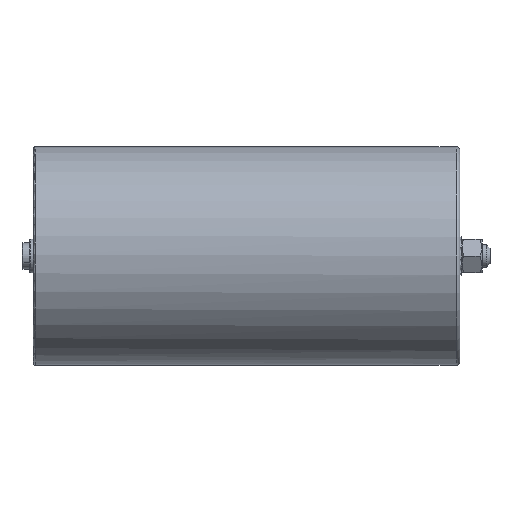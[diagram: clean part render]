
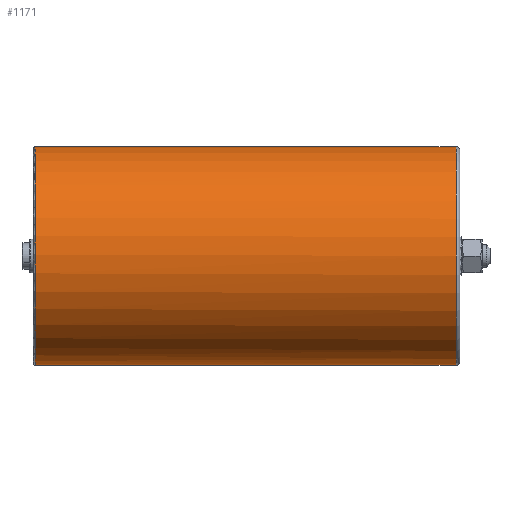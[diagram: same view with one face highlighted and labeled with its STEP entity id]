
A CAD part, left-side view. The second image highlights one B-rep face of the part: STEP entity #1171.
In plain terms, the highlighted cylindrical face has radius 58 mm (diameter 116 mm), a partial arc.
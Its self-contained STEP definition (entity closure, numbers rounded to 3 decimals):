
#25 = EDGE_CURVE ( 'NONE', #1719, #2238, #2078, .T. ) ;
#83 = DIRECTION ( 'NONE',  ( 0., -1., 0. ) ) ;
#138 = CARTESIAN_POINT ( 'NONE',  ( 0., 225., 0. ) ) ;
#418 = ORIENTED_EDGE ( 'NONE', *, *, #3956, .T. ) ;
#468 = VECTOR ( 'NONE', #2597, 1000. ) ;
#621 = CARTESIAN_POINT ( 'NONE',  ( 0., 2., 58. ) ) ;
#630 = LINE ( 'NONE', #1535, #468 ) ;
#881 = CYLINDRICAL_SURFACE ( 'NONE', #1260, 58. ) ;
#1171 = ADVANCED_FACE ( 'NONE', ( #2261 ), #881, .T. ) ;
#1199 = CARTESIAN_POINT ( 'NONE',  ( 0., 225., 0. ) ) ;
#1200 = CARTESIAN_POINT ( 'NONE',  ( 0., 0., 0. ) ) ;
#1260 = AXIS2_PLACEMENT_3D ( 'NONE', #1200, #3515, #3157 ) ;
#1406 = AXIS2_PLACEMENT_3D ( 'NONE', #3771, #3728, #3123 ) ;
#1429 = CARTESIAN_POINT ( 'NONE',  ( -38.196, 225., -43.647 ) ) ;
#1438 = DIRECTION ( 'NONE',  ( 0., -1., 0. ) ) ;
#1511 = EDGE_CURVE ( 'NONE', #2238, #2734, #3566, .T. ) ;
#1535 = CARTESIAN_POINT ( 'NONE',  ( 0., 0., 58. ) ) ;
#1717 = CARTESIAN_POINT ( 'NONE',  ( 0., 2., -58. ) ) ;
#1719 = VERTEX_POINT ( 'NONE', #3019 ) ;
#1820 = AXIS2_PLACEMENT_3D ( 'NONE', #138, #1438, #4105 ) ;
#1831 = EDGE_CURVE ( 'NONE', #3852, #2386, #3498, .T. ) ;
#1852 = DIRECTION ( 'NONE',  ( 0., -1., 0. ) ) ;
#1983 = CARTESIAN_POINT ( 'NONE',  ( 0., 225., -58. ) ) ;
#2046 = LINE ( 'NONE', #3041, #3587 ) ;
#2078 = CIRCLE ( 'NONE', #3965, 58. ) ;
#2238 = VERTEX_POINT ( 'NONE', #1429 ) ;
#2261 = FACE_OUTER_BOUND ( 'NONE', #3872, .T. ) ;
#2386 = VERTEX_POINT ( 'NONE', #621 ) ;
#2507 = ORIENTED_EDGE ( 'NONE', *, *, #4112, .F. ) ;
#2597 = DIRECTION ( 'NONE',  ( 0., -1., 0. ) ) ;
#2734 = VERTEX_POINT ( 'NONE', #1983 ) ;
#2870 = DIRECTION ( 'NONE',  ( 0.659, 0., 0.753 ) ) ;
#3019 = CARTESIAN_POINT ( 'NONE',  ( 0., 225., 58. ) ) ;
#3041 = CARTESIAN_POINT ( 'NONE',  ( 0., 0., -58. ) ) ;
#3123 = DIRECTION ( 'NONE',  ( 0., 0., -1. ) ) ;
#3157 = DIRECTION ( 'NONE',  ( 0., 0., -1. ) ) ;
#3421 = ORIENTED_EDGE ( 'NONE', *, *, #1511, .T. ) ;
#3498 = CIRCLE ( 'NONE', #1406, 58. ) ;
#3515 = DIRECTION ( 'NONE',  ( 0., -1., 0. ) ) ;
#3566 = CIRCLE ( 'NONE', #1820, 58. ) ;
#3587 = VECTOR ( 'NONE', #83, 1000. ) ;
#3728 = DIRECTION ( 'NONE',  ( 0., 1., 0. ) ) ;
#3771 = CARTESIAN_POINT ( 'NONE',  ( 0., 2., 0. ) ) ;
#3786 = ORIENTED_EDGE ( 'NONE', *, *, #25, .T. ) ;
#3852 = VERTEX_POINT ( 'NONE', #1717 ) ;
#3872 = EDGE_LOOP ( 'NONE', ( #2507, #3786, #3421, #418, #4273 ) ) ;
#3956 = EDGE_CURVE ( 'NONE', #2734, #3852, #2046, .T. ) ;
#3965 = AXIS2_PLACEMENT_3D ( 'NONE', #1199, #1852, #2870 ) ;
#4105 = DIRECTION ( 'NONE',  ( 0.659, 0., 0.753 ) ) ;
#4112 = EDGE_CURVE ( 'NONE', #1719, #2386, #630, .T. ) ;
#4273 = ORIENTED_EDGE ( 'NONE', *, *, #1831, .T. ) ;
